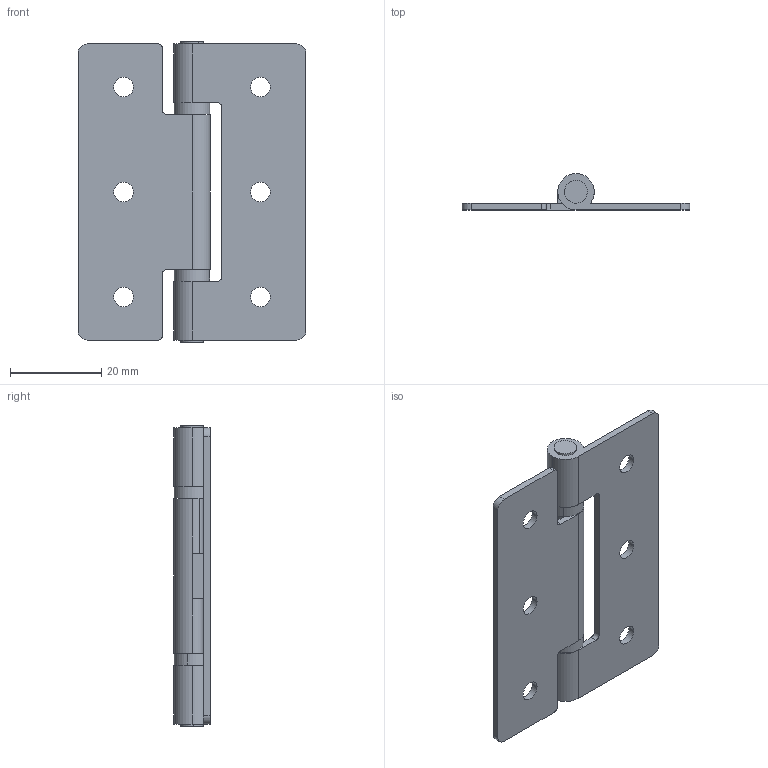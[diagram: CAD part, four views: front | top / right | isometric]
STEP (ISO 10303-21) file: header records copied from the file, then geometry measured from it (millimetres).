
FILE_DESCRIPTION (( 'STEP AP203' ), '1' );
FILE_NAME ('B-1209-2.STEP', '2012-08-03T08:56:49', ( '11sw' ), ( 'タキゲン製造株式会社' ), 'SwSTEP 2.0', 'SolidWorks 2011', '' );
FILE_SCHEMA (( 'CONFIG_CONTROL_DESIGN' ));
Length unit declared in the file: millimetre
Products named in the file (5): B-1209-2; B-1209-2プラグ_; B-1209-2シャフト_; B-1209-2ヒンジB_; B-1209-2ヒンジA_
Assembly tree (6 placements, depth 2):
  B-1209-2
    B-1209-2ヒンジB_
    B-1209-2プラグ_  x2
    B-1209-2ヒンジA_
    B-1209-2シャフト_  x2
Bounding box: 50 x 8 x 66 mm (x, y, z)
Volume: 6876.5 mm3; surface area: 10232.4 mm2
Topology: 6 solids, 6 shells, 113 faces, 268 edges, 172 vertices
Faces by surface type: cylinder 64, plane 37, cone 12
Entity records: 3235 total; most frequent: DIRECTION 510, CARTESIAN_POINT 451, ORIENTED_EDGE 432, EDGE_CURVE 216, AXIS2_PLACEMENT_3D 199, VERTEX_POINT 140, VECTOR 112, LINE 112
